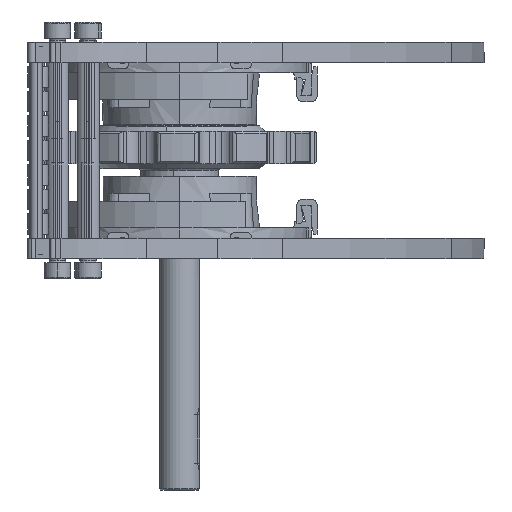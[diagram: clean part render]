
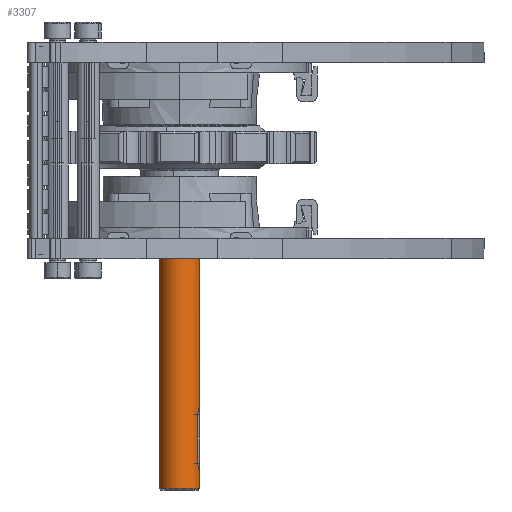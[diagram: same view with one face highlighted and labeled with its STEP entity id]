
A CAD part, left-side view. The second image highlights one B-rep face of the part: STEP entity #3307.
In plain terms, the highlighted cylindrical face has radius 10 mm (diameter 20 mm), a partial arc.
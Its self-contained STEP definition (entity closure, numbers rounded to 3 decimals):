
#1820 = VERTEX_POINT ( 'NONE', #28589 ) ;
#1826 = VERTEX_POINT ( 'NONE', #28581 ) ;
#1877 = VERTEX_POINT ( 'NONE', #28724 ) ;
#2002 = VERTEX_POINT ( 'NONE', #28966 ) ;
#2011 = VERTEX_POINT ( 'NONE', #28954 ) ;
#2012 = EDGE_CURVE ( 'NONE', #1877, #2002, #28990, .T. ) ;
#2071 = EDGE_CURVE ( 'NONE', #2087, #2011, #29131, .T. ) ;
#2087 = VERTEX_POINT ( 'NONE', #29181 ) ;
#2339 = EDGE_CURVE ( 'NONE', #1820, #1826, #29540, .T. ) ;
#3306 = ORIENTED_EDGE ( 'NONE', *, *, #2012, .F. ) ;
#3307 = ADVANCED_FACE ( 'NONE', ( #31413 ), #31406, .T. ) ;
#3311 = ORIENTED_EDGE ( 'NONE', *, *, #3365, .T. ) ;
#3314 = ORIENTED_EDGE ( 'NONE', *, *, #2339, .T. ) ;
#3316 = EDGE_CURVE ( 'NONE', #3332, #1826, #31390, .T. ) ;
#3321 = EDGE_CURVE ( 'NONE', #2011, #2002, #31414, .T. ) ;
#3330 = ORIENTED_EDGE ( 'NONE', *, *, #2071, .T. ) ;
#3332 = VERTEX_POINT ( 'NONE', #31466 ) ;
#3339 = EDGE_CURVE ( 'NONE', #2087, #3369, #31511, .T. ) ;
#3344 = EDGE_LOOP ( 'NONE', ( #3306, #3311, #3314, #3350, #3389, #3355, #3330, #3358 ) ) ;
#3350 = ORIENTED_EDGE ( 'NONE', *, *, #3316, .F. ) ;
#3355 = ORIENTED_EDGE ( 'NONE', *, *, #3339, .F. ) ;
#3357 = EDGE_CURVE ( 'NONE', #3369, #3332, #31481, .T. ) ;
#3358 = ORIENTED_EDGE ( 'NONE', *, *, #3321, .T. ) ;
#3365 = EDGE_CURVE ( 'NONE', #1877, #1820, #31528, .T. ) ;
#3369 = VERTEX_POINT ( 'NONE', #31527 ) ;
#3389 = ORIENTED_EDGE ( 'NONE', *, *, #3357, .F. ) ;
#28581 = CARTESIAN_POINT ( 'NONE',  ( 200., 0., 10. ) ) ;
#28589 = CARTESIAN_POINT ( 'NONE',  ( 209.5, 0., 10. ) ) ;
#28724 = CARTESIAN_POINT ( 'NONE',  ( 209.5, 0., -10. ) ) ;
#28954 = CARTESIAN_POINT ( 'NONE',  ( 84., 0., 10. ) ) ;
#28966 = CARTESIAN_POINT ( 'NONE',  ( 84., 0., -10. ) ) ;
#28986 = DIRECTION ( 'NONE',  ( -1., 0., 0. ) ) ;
#28987 = VECTOR ( 'NONE', #28986, 1000. ) ;
#28988 = CARTESIAN_POINT ( 'NONE',  ( 84., 0., -10. ) ) ;
#28990 = LINE ( 'NONE', #28988, #28987 ) ;
#29123 = VECTOR ( 'NONE', #29144, 1000. ) ;
#29131 = LINE ( 'NONE', #29145, #29123 ) ;
#29144 = DIRECTION ( 'NONE',  ( -1., 0., 0. ) ) ;
#29145 = CARTESIAN_POINT ( 'NONE',  ( 84., 0., 10. ) ) ;
#29181 = CARTESIAN_POINT ( 'NONE',  ( 170., 0., 10. ) ) ;
#29540 = LINE ( 'NONE', #29582, #29581 ) ;
#29580 = DIRECTION ( 'NONE',  ( -1., 0., 0. ) ) ;
#29581 = VECTOR ( 'NONE', #29580, 1000. ) ;
#29582 = CARTESIAN_POINT ( 'NONE',  ( 84., 0., 10. ) ) ;
#31390 = B_SPLINE_CURVE_WITH_KNOTS ( 'NONE', 3,
 ( #31448, #31447, #31446, #31445, #31444, #31443, #31442, #31441, #31440, #31439, #31438, #31437, #31436, #31435, #31434, #31433 ),
 .UNSPECIFIED., .F., .F.,
 ( 4, 2, 2, 2, 2, 2, 2, 4 ),
 ( 0., 0.001, 0.001, 0.002, 0.002, 0.004, 0.004, 0.005 ),
 .UNSPECIFIED. ) ;
#31392 = CARTESIAN_POINT ( 'NONE',  ( 84., 0., 0. ) ) ;
#31393 = DIRECTION ( 'NONE',  ( 0., 0., 1. ) ) ;
#31394 = DIRECTION ( 'NONE',  ( -1., 0., 0. ) ) ;
#31401 = AXIS2_PLACEMENT_3D ( 'NONE', #31412, #31394, #31393 ) ;
#31406 = CYLINDRICAL_SURFACE ( 'NONE', #31401, 10. ) ;
#31412 = CARTESIAN_POINT ( 'NONE',  ( 84., 0., 0. ) ) ;
#31413 = FACE_OUTER_BOUND ( 'NONE', #3344, .T. ) ;
#31414 = CIRCLE ( 'NONE', #31425, 10. ) ;
#31425 = AXIS2_PLACEMENT_3D ( 'NONE', #31392, #31428, #31476 ) ;
#31428 = DIRECTION ( 'NONE',  ( 1., 0., 0. ) ) ;
#31433 = CARTESIAN_POINT ( 'NONE',  ( 200., 0., 10. ) ) ;
#31434 = CARTESIAN_POINT ( 'NONE',  ( 200., -0.197, 10. ) ) ;
#31435 = CARTESIAN_POINT ( 'NONE',  ( 199.981, -0.393, 9.994 ) ) ;
#31436 = CARTESIAN_POINT ( 'NONE',  ( 199.903, -0.781, 9.971 ) ) ;
#31437 = CARTESIAN_POINT ( 'NONE',  ( 199.845, -0.971, 9.954 ) ) ;
#31438 = CARTESIAN_POINT ( 'NONE',  ( 199.62, -1.512, 9.892 ) ) ;
#31439 = CARTESIAN_POINT ( 'NONE',  ( 199.397, -1.845, 9.832 ) ) ;
#31440 = CARTESIAN_POINT ( 'NONE',  ( 198.985, -2.258, 9.743 ) ) ;
#31441 = CARTESIAN_POINT ( 'NONE',  ( 198.832, -2.384, 9.712 ) ) ;
#31442 = CARTESIAN_POINT ( 'NONE',  ( 198.506, -2.602, 9.656 ) ) ;
#31443 = CARTESIAN_POINT ( 'NONE',  ( 198.335, -2.694, 9.631 ) ) ;
#31444 = CARTESIAN_POINT ( 'NONE',  ( 197.972, -2.845, 9.587 ) ) ;
#31445 = CARTESIAN_POINT ( 'NONE',  ( 197.781, -2.903, 9.569 ) ) ;
#31446 = CARTESIAN_POINT ( 'NONE',  ( 197.395, -2.98, 9.546 ) ) ;
#31447 = CARTESIAN_POINT ( 'NONE',  ( 197.2, -3., 9.539 ) ) ;
#31448 = CARTESIAN_POINT ( 'NONE',  ( 197., -3., 9.539 ) ) ;
#31466 = CARTESIAN_POINT ( 'NONE',  ( 197., -3., 9.539 ) ) ;
#31476 = DIRECTION ( 'NONE',  ( 0., 0., -1. ) ) ;
#31481 = LINE ( 'NONE', #31542, #31541 ) ;
#31487 = CARTESIAN_POINT ( 'NONE',  ( 173., -3., 9.539 ) ) ;
#31488 = CARTESIAN_POINT ( 'NONE',  ( 172.801, -3., 9.539 ) ) ;
#31489 = CARTESIAN_POINT ( 'NONE',  ( 172.601, -2.98, 9.546 ) ) ;
#31490 = CARTESIAN_POINT ( 'NONE',  ( 172.215, -2.902, 9.57 ) ) ;
#31491 = CARTESIAN_POINT ( 'NONE',  ( 172.028, -2.845, 9.587 ) ) ;
#31492 = CARTESIAN_POINT ( 'NONE',  ( 171.667, -2.694, 9.63 ) ) ;
#31493 = CARTESIAN_POINT ( 'NONE',  ( 171.491, -2.6, 9.657 ) ) ;
#31494 = CARTESIAN_POINT ( 'NONE',  ( 171.167, -2.383, 9.713 ) ) ;
#31495 = CARTESIAN_POINT ( 'NONE',  ( 171.017, -2.26, 9.742 ) ) ;
#31496 = CARTESIAN_POINT ( 'NONE',  ( 170.741, -1.983, 9.802 ) ) ;
#31497 = CARTESIAN_POINT ( 'NONE',  ( 170.616, -1.831, 9.832 ) ) ;
#31498 = CARTESIAN_POINT ( 'NONE',  ( 170.399, -1.507, 9.887 ) ) ;
#31499 = CARTESIAN_POINT ( 'NONE',  ( 170.306, -1.334, 9.912 ) ) ;
#31500 = CARTESIAN_POINT ( 'NONE',  ( 170.154, -0.97, 9.955 ) ) ;
#31501 = CARTESIAN_POINT ( 'NONE',  ( 170.097, -0.782, 9.971 ) ) ;
#31502 = CARTESIAN_POINT ( 'NONE',  ( 170.02, -0.397, 9.994 ) ) ;
#31509 = CARTESIAN_POINT ( 'NONE',  ( 170., -0.197, 10. ) ) ;
#31510 = CARTESIAN_POINT ( 'NONE',  ( 170., 0., 10. ) ) ;
#31511 = B_SPLINE_CURVE_WITH_KNOTS ( 'NONE', 3,
 ( #31510, #31509, #31502, #31501, #31500, #31499, #31498, #31497, #31496, #31495, #31494, #31493, #31492, #31491, #31490, #31489, #31488, #31487 ),
 .UNSPECIFIED., .F., .F.,
 ( 4, 2, 2, 2, 2, 2, 2, 2, 4 ),
 ( 0.005, 0.005, 0.006, 0.006, 0.007, 0.008, 0.008, 0.009, 0.009 ),
 .UNSPECIFIED. ) ;
#31521 = DIRECTION ( 'NONE',  ( 0., 0., -1. ) ) ;
#31522 = DIRECTION ( 'NONE',  ( -1., 0., 0. ) ) ;
#31523 = CARTESIAN_POINT ( 'NONE',  ( 209.5, 0., 0. ) ) ;
#31527 = CARTESIAN_POINT ( 'NONE',  ( 173., -3., 9.539 ) ) ;
#31528 = CIRCLE ( 'NONE', #31534, 10. ) ;
#31534 = AXIS2_PLACEMENT_3D ( 'NONE', #31523, #31522, #31521 ) ;
#31540 = DIRECTION ( 'NONE',  ( 1., 0., 0. ) ) ;
#31541 = VECTOR ( 'NONE', #31540, 1000. ) ;
#31542 = CARTESIAN_POINT ( 'NONE',  ( 84., -3., 9.539 ) ) ;
